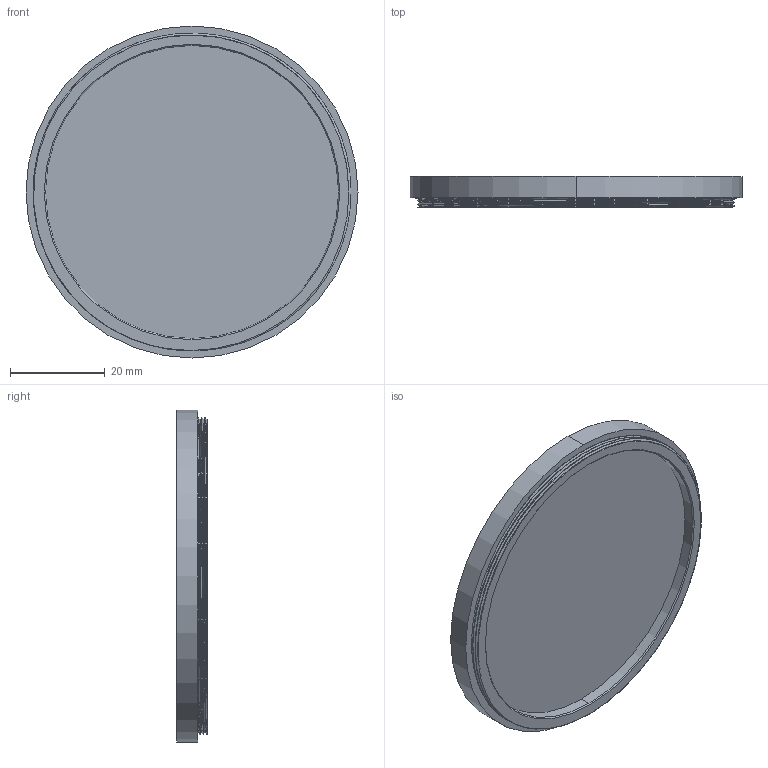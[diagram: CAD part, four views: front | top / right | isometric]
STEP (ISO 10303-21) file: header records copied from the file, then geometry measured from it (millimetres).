
FILE_DESCRIPTION (( 'STEP AP214' ), '1' );
FILE_NAME ('M67 x P0.75.STEP', '2023-01-19T08:18:18', ( '' ), ( '' ), 'SwSTEP 2.0', 'SolidWorks 2021', '' );
FILE_SCHEMA (( 'AUTOMOTIVE_DESIGN' ));
Length unit declared in the file: millimetre
Products named in the file (1): M67 x P0.75
Bounding box: 70 x 6.5 x 70 mm (x, y, z)
Volume: 4826.2 mm3; surface area: 12378.6 mm2
Topology: 3 solids, 3 shells, 45 faces, 103 edges, 68 vertices
Faces by surface type: cylinder 24, plane 11, bspline 8, cone 2
Entity records: 2846 total; most frequent: CARTESIAN_POINT 1875, ORIENTED_EDGE 206, DIRECTION 170, EDGE_CURVE 103, AXIS2_PLACEMENT_3D 72, VERTEX_POINT 68, EDGE_LOOP 53, FACE_OUTER_BOUND 45
